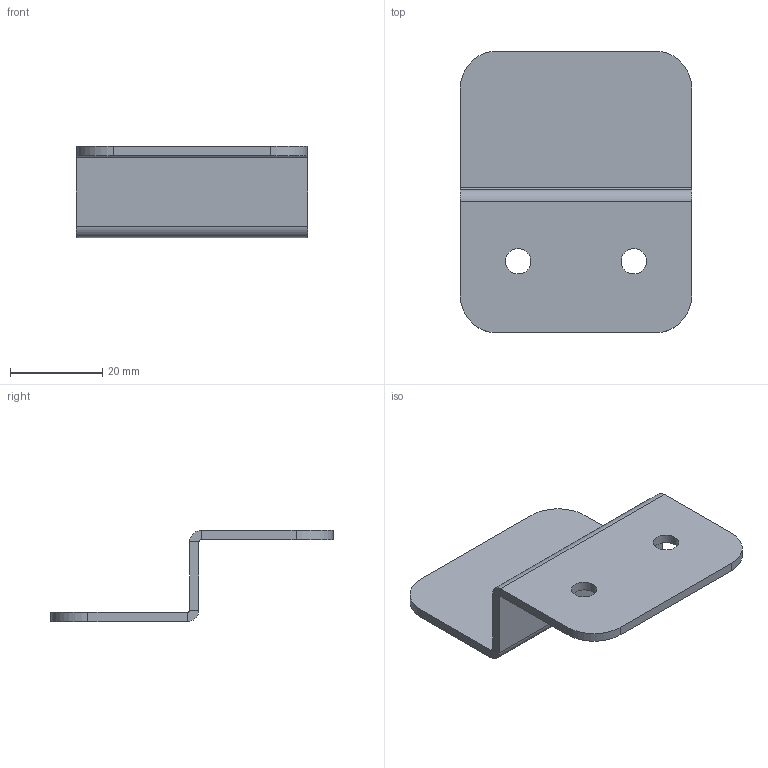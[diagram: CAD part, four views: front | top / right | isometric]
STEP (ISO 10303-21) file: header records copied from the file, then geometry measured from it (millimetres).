
FILE_DESCRIPTION (( 'STEP AP214' ), '1' );
FILE_NAME ('MONO_038-p303_01.STEP', '2025-09-23T04:56:45', ( '' ), ( '' ), 'SwSTEP 2.0', 'SolidWorks 2024', '' );
FILE_SCHEMA (( 'AUTOMOTIVE_DESIGN' ));
Length unit declared in the file: millimetre
Products named in the file (1): MONO_038-p303_01
Bounding box: 50 x 61 x 19.75 mm (x, y, z)
Volume: 7541.3 mm3; surface area: 8092.8 mm2
Topology: 1 solids, 1 shells, 28 faces, 62 edges, 36 vertices
Faces by surface type: plane 18, cylinder 10
Full cylindrical faces by diameter (mm): 5.5 x2
Entity records: 779 total; most frequent: DIRECTION 138, CARTESIAN_POINT 125, ORIENTED_EDGE 120, EDGE_CURVE 60, AXIS2_PLACEMENT_3D 49, LINE 40, VECTOR 40, VERTEX_POINT 36
